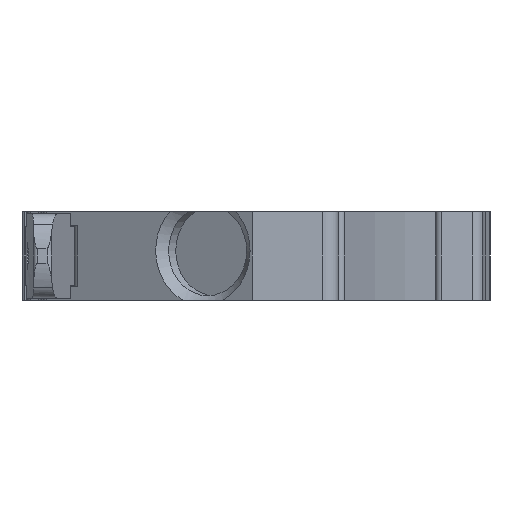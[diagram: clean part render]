
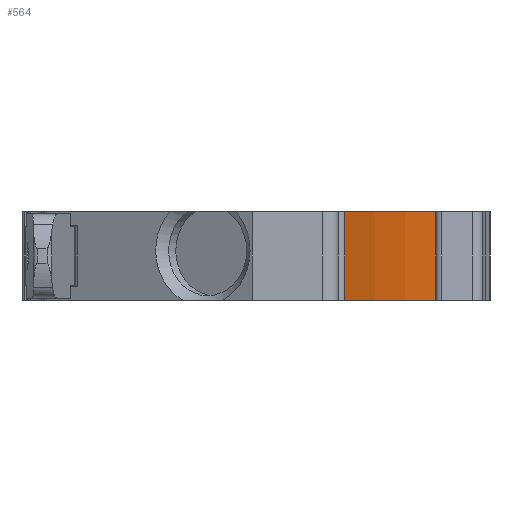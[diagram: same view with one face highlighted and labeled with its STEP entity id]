
A CAD part, left-side view. The second image highlights one B-rep face of the part: STEP entity #564.
In plain terms, the highlighted cylindrical face has radius 25 mm (diameter 50 mm), a partial arc.
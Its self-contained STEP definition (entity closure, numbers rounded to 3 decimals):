
#564 = ADVANCED_FACE( '', ( #1206 ), #1207, .T. );
#1206 = FACE_OUTER_BOUND( '', #1919, .T. );
#1207 = CYLINDRICAL_SURFACE( '', #1920, 25. );
#1919 = EDGE_LOOP( '', ( #3750, #3751, #3752, #3753 ) );
#1920 = AXIS2_PLACEMENT_3D( '', #3754, #3755, #3756 );
#3750 = ORIENTED_EDGE( '', *, *, #5086, .T. );
#3751 = ORIENTED_EDGE( '', *, *, #5231, .F. );
#3752 = ORIENTED_EDGE( '', *, *, #4661, .F. );
#3753 = ORIENTED_EDGE( '', *, *, #4849, .T. );
#3754 = CARTESIAN_POINT( '', ( -22.4, -2.47, 7.5 ) );
#3755 = DIRECTION( '', ( 0., 0., 1. ) );
#3756 = DIRECTION( '', ( -1., 0., 0. ) );
#4661 = EDGE_CURVE( '', #5730, #5732, #5733, .T. );
#4849 = EDGE_CURVE( '', #5730, #6049, #6051, .T. );
#5086 = EDGE_CURVE( '', #6049, #6411, #6413, .T. );
#5231 = EDGE_CURVE( '', #5732, #6411, #6585, .T. );
#5730 = VERTEX_POINT( '', #7244 );
#5732 = VERTEX_POINT( '', #7246 );
#5733 = CIRCLE( '', #7247, 25. );
#6049 = VERTEX_POINT( '', #7675 );
#6051 = LINE( '', #7677, #7678 );
#6411 = VERTEX_POINT( '', #8251 );
#6413 = CIRCLE( '', #8254, 25. );
#6585 = LINE( '', #8513, #8514 );
#7244 = CARTESIAN_POINT( '', ( -46.17, 5.276, 7.5 ) );
#7246 = CARTESIAN_POINT( '', ( -47.4, -2.47, 7.5 ) );
#7247 = AXIS2_PLACEMENT_3D( '', #8920, #8921, #8922 );
#7675 = CARTESIAN_POINT( '', ( -46.17, 5.276, 0. ) );
#7677 = CARTESIAN_POINT( '', ( -46.17, 5.276, 7.5 ) );
#7678 = VECTOR( '', #9236, 1000. );
#8251 = CARTESIAN_POINT( '', ( -47.4, -2.47, 0. ) );
#8254 = AXIS2_PLACEMENT_3D( '', #9550, #9551, #9552 );
#8513 = CARTESIAN_POINT( '', ( -47.4, -2.47, 7.5 ) );
#8514 = VECTOR( '', #9675, 1000. );
#8920 = CARTESIAN_POINT( '', ( -22.4, -2.47, 7.5 ) );
#8921 = DIRECTION( '', ( 0., 0., 1. ) );
#8922 = DIRECTION( '', ( 1., 0., 0. ) );
#9236 = DIRECTION( '', ( 0., 0., -1. ) );
#9550 = CARTESIAN_POINT( '', ( -22.4, -2.47, 0. ) );
#9551 = DIRECTION( '', ( 0., 0., 1. ) );
#9552 = DIRECTION( '', ( 1., 0., 0. ) );
#9675 = DIRECTION( '', ( 0., 0., -1. ) );
